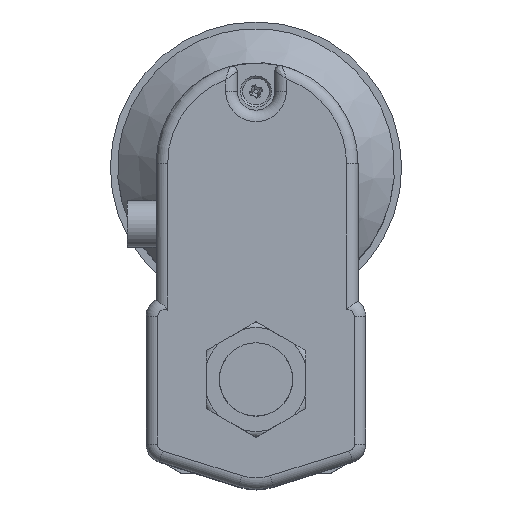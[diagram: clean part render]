
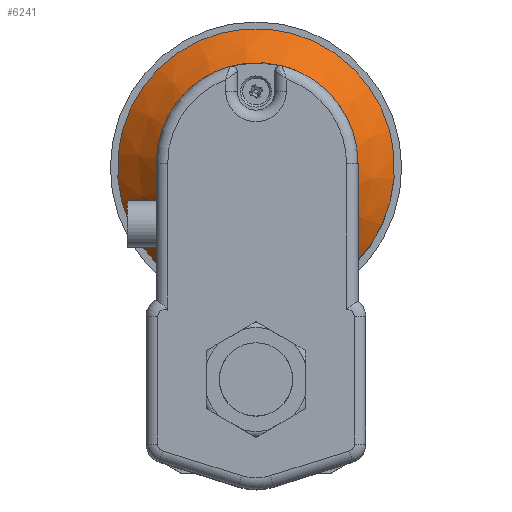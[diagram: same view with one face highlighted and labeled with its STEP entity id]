
A CAD part, top view. The second image highlights one B-rep face of the part: STEP entity #6241.
In plain terms, the highlighted conical face has half-angle 45 degrees and reference radius 48 mm.
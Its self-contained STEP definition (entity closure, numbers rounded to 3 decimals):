
#2578 = CARTESIAN_POINT ( 'NONE',  ( 27.908, 34.847, 53.5 ) ) ;
#2581 = CARTESIAN_POINT ( 'NONE',  ( -27.908, 34.847, 53.5 ) ) ;
#2718 = VERTEX_POINT ( 'NONE', #2719 ) ;
#2719 = CARTESIAN_POINT ( 'NONE',  ( 0., 39.9, 67.5 ) ) ;
#3535 = CARTESIAN_POINT ( 'NONE',  ( 0., 73.9, 53.5 ) ) ;
#3730 = DIRECTION ( 'NONE',  ( 0., 1., 0. ) ) ;
#3733 = DIRECTION ( 'NONE',  ( 0., 0., -1. ) ) ;
#3856 = FACE_OUTER_BOUND ( 'NONE', #5388, .T. ) ;
#3857 = CONICAL_SURFACE ( 'NONE', #8456, 48., 0.785 ) ;
#3859 = FACE_BOUND ( 'NONE', #5405, .T. ) ;
#5083 = EDGE_CURVE ( 'NONE', #2718, #2718, #6156, .T. ) ;
#5098 = EDGE_CURVE ( 'NONE', #8852, #8849, #8581, .T. ) ;
#5110 = EDGE_CURVE ( 'NONE', #8849, #8852, #7279, .T. ) ;
#5297 = AXIS2_PLACEMENT_3D ( 'NONE', #9056, #9057, #9058 ) ;
#5306 = AXIS2_PLACEMENT_3D ( 'NONE', #9177, #9180, #9181 ) ;
#5388 = EDGE_LOOP ( 'NONE', ( #6506, #6450 ) ) ;
#5405 = EDGE_LOOP ( 'NONE', ( #6522 ) ) ;
#6156 = CIRCLE ( 'NONE', #5297, 34. ) ;
#6241 = ADVANCED_FACE ( 'NONE', ( #3859, #3856 ), #3857, .T. ) ;
#6450 = ORIENTED_EDGE ( 'NONE', *, *, #5098, .T. ) ;
#6506 = ORIENTED_EDGE ( 'NONE', *, *, #5110, .T. ) ;
#6522 = ORIENTED_EDGE ( 'NONE', *, *, #5083, .F. ) ;
#7279 = CIRCLE ( 'NONE', #5306, 48. ) ;
#8456 = AXIS2_PLACEMENT_3D ( 'NONE', #3535, #3733, #3730 ) ;
#8581 = B_SPLINE_CURVE_WITH_KNOTS ( 'NONE', 3,
 ( #9106, #9112, #9113, #9114, #9115, #9116, #9117, #9118, #9119, #9120, #9121, #9122, #9123, #9124, #9125, #9126, #9127, #9128, #9129, #9130, #9131, #9132, #9133, #9134, #9135, #9136 ),
 .UNSPECIFIED., .F., .F.,
 ( 4, 2, 2, 2, 2, 2, 2, 2, 2, 2, 2, 2, 4 ),
 ( 0., 0.004, 0.007, 0.015, 0.018, 0.022, 0.026, 0.029, 0.037, 0.04, 0.044, 0.051, 0.059 ),
 .UNSPECIFIED. ) ;
#8849 = VERTEX_POINT ( 'NONE', #2578 ) ;
#8852 = VERTEX_POINT ( 'NONE', #2581 ) ;
#9056 = CARTESIAN_POINT ( 'NONE',  ( 0., 73.9, 67.5 ) ) ;
#9057 = DIRECTION ( 'NONE',  ( 0., 0., 1. ) ) ;
#9058 = DIRECTION ( 'NONE',  ( 0., -1., 0. ) ) ;
#9106 = CARTESIAN_POINT ( 'NONE',  ( -27.908, 34.847, 53.5 ) ) ;
#9112 = CARTESIAN_POINT ( 'NONE',  ( -26.826, 34.768, 54.065 ) ) ;
#9113 = CARTESIAN_POINT ( 'NONE',  ( -25.733, 34.688, 54.609 ) ) ;
#9114 = CARTESIAN_POINT ( 'NONE',  ( -23.531, 34.53, 55.644 ) ) ;
#9115 = CARTESIAN_POINT ( 'NONE',  ( -22.421, 34.452, 56.137 ) ) ;
#9116 = CARTESIAN_POINT ( 'NONE',  ( -19.06, 34.223, 57.53 ) ) ;
#9117 = CARTESIAN_POINT ( 'NONE',  ( -16.779, 34.077, 58.344 ) ) ;
#9118 = CARTESIAN_POINT ( 'NONE',  ( -13.28, 33.887, 59.356 ) ) ;
#9119 = CARTESIAN_POINT ( 'NONE',  ( -12.101, 33.829, 59.657 ) ) ;
#9120 = CARTESIAN_POINT ( 'NONE',  ( -9.715, 33.725, 60.183 ) ) ;
#9121 = CARTESIAN_POINT ( 'NONE',  ( -8.505, 33.679, 60.407 ) ) ;
#9122 = CARTESIAN_POINT ( 'NONE',  ( -6.081, 33.605, 60.767 ) ) ;
#9123 = CARTESIAN_POINT ( 'NONE',  ( -4.863, 33.577, 60.903 ) ) ;
#9124 = CARTESIAN_POINT ( 'NONE',  ( -2.415, 33.538, 61.085 ) ) ;
#9125 = CARTESIAN_POINT ( 'NONE',  ( -1.188, 33.529, 61.13 ) ) ;
#9126 = CARTESIAN_POINT ( 'NONE',  ( 2.477, 33.529, 61.127 ) ) ;
#9127 = CARTESIAN_POINT ( 'NONE',  ( 4.908, 33.569, 60.942 ) ) ;
#9128 = CARTESIAN_POINT ( 'NONE',  ( 8.537, 33.68, 60.402 ) ) ;
#9129 = CARTESIAN_POINT ( 'NONE',  ( 9.746, 33.726, 60.177 ) ) ;
#9130 = CARTESIAN_POINT ( 'NONE',  ( 12.13, 33.83, 59.65 ) ) ;
#9131 = CARTESIAN_POINT ( 'NONE',  ( 13.307, 33.888, 59.348 ) ) ;
#9132 = CARTESIAN_POINT ( 'NONE',  ( 16.801, 34.078, 58.337 ) ) ;
#9133 = CARTESIAN_POINT ( 'NONE',  ( 19.078, 34.224, 57.523 ) ) ;
#9134 = CARTESIAN_POINT ( 'NONE',  ( 23.55, 34.529, 55.668 ) ) ;
#9135 = CARTESIAN_POINT ( 'NONE',  ( 25.745, 34.688, 54.629 ) ) ;
#9136 = CARTESIAN_POINT ( 'NONE',  ( 27.908, 34.847, 53.5 ) ) ;
#9177 = CARTESIAN_POINT ( 'NONE',  ( 0., 73.9, 53.5 ) ) ;
#9180 = DIRECTION ( 'NONE',  ( 0., 0., 1. ) ) ;
#9181 = DIRECTION ( 'NONE',  ( 0., -1., 0. ) ) ;
